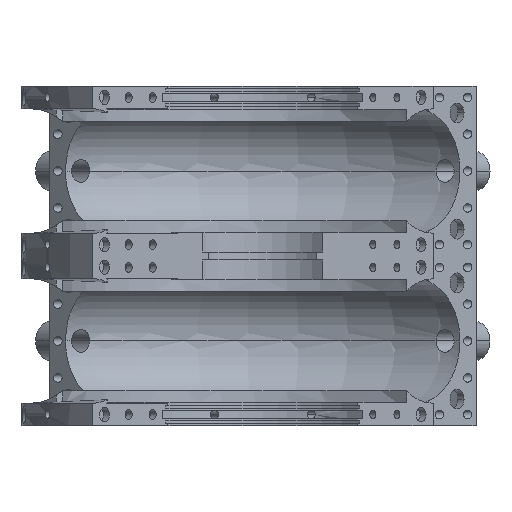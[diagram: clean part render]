
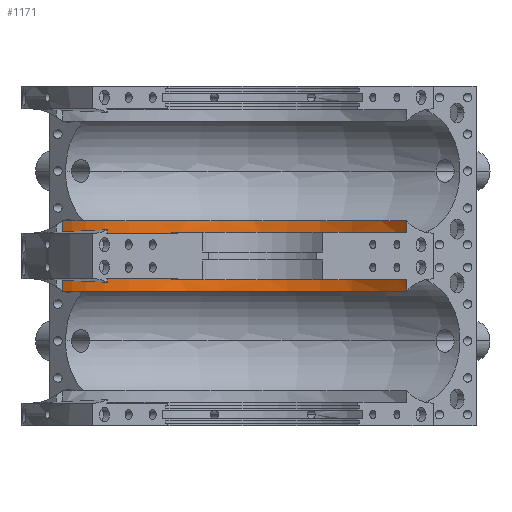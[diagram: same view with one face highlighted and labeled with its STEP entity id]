
A CAD part, front view. The second image highlights one B-rep face of the part: STEP entity #1171.
In plain terms, the highlighted cylindrical face has radius 71.8 mm (diameter 143.6 mm), a partial arc.
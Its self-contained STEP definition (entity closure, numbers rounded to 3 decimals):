
#1171=ADVANCED_FACE('',(#2918,#2919,#2920,#2921),#2922,.F.);
#2918=FACE_OUTER_BOUND('',#5284,.T.);
#2919=FACE_BOUND('',#5285,.T.);
#2920=FACE_BOUND('',#5286,.T.);
#2921=FACE_BOUND('',#5287,.T.);
#2922=CYLINDRICAL_SURFACE('',#5288,71.8);
#5284=EDGE_LOOP('',(#9042,#9043,#9044,#9045,#9046,#9047,#9048,#9049));
#5285=EDGE_LOOP('',(#9050,#9051,#9052,#9053));
#5286=EDGE_LOOP('',(#9054,#9055,#9056,#9057));
#5287=EDGE_LOOP('',(#9058,#9059,#9060,#9061));
#5288=AXIS2_PLACEMENT_3D('',#9062,#9063,#9064);
#9042=ORIENTED_EDGE('',*,*,#15337,.T.);
#9043=ORIENTED_EDGE('',*,*,#15006,.T.);
#9044=ORIENTED_EDGE('',*,*,#15338,.F.);
#9045=ORIENTED_EDGE('',*,*,#15339,.F.);
#9046=ORIENTED_EDGE('',*,*,#15340,.T.);
#9047=ORIENTED_EDGE('',*,*,#15341,.F.);
#9048=ORIENTED_EDGE('',*,*,#15342,.F.);
#9049=ORIENTED_EDGE('',*,*,#15343,.T.);
#9050=ORIENTED_EDGE('',*,*,#14479,.F.);
#9051=ORIENTED_EDGE('',*,*,#15344,.F.);
#9052=ORIENTED_EDGE('',*,*,#15345,.T.);
#9053=ORIENTED_EDGE('',*,*,#15346,.F.);
#9054=ORIENTED_EDGE('',*,*,#15347,.F.);
#9055=ORIENTED_EDGE('',*,*,#15348,.F.);
#9056=ORIENTED_EDGE('',*,*,#15349,.T.);
#9057=ORIENTED_EDGE('',*,*,#15350,.F.);
#9058=ORIENTED_EDGE('',*,*,#15351,.F.);
#9059=ORIENTED_EDGE('',*,*,#15352,.T.);
#9060=ORIENTED_EDGE('',*,*,#15353,.F.);
#9061=ORIENTED_EDGE('',*,*,#15248,.F.);
#9062=CARTESIAN_POINT('',(0.0,0.,8.4));
#9063=DIRECTION('',(0.0,0.0,1.0));
#9064=DIRECTION('',(1.0,0.0,0.0));
#14479=EDGE_CURVE('',#17643,#17646,#17647,.T.);
#15006=EDGE_CURVE('',#18537,#18535,#18538,.T.);
#15248=EDGE_CURVE('',#18934,#18936,#18937,.T.);
#15337=EDGE_CURVE('',#19083,#18537,#19084,.T.);
#15338=EDGE_CURVE('',#19085,#18535,#19086,.T.);
#15339=EDGE_CURVE('',#19087,#19085,#19088,.T.);
#15340=EDGE_CURVE('',#19087,#19089,#19090,.T.);
#15341=EDGE_CURVE('',#19091,#19089,#19092,.T.);
#15342=EDGE_CURVE('',#19093,#19091,#19094,.T.);
#15343=EDGE_CURVE('',#19093,#19083,#19095,.T.);
#15344=EDGE_CURVE('',#19096,#17643,#19097,.T.);
#15345=EDGE_CURVE('',#19096,#19098,#19099,.T.);
#15346=EDGE_CURVE('',#17646,#19098,#19100,.T.);
#15347=EDGE_CURVE('',#19101,#19102,#19103,.T.);
#15348=EDGE_CURVE('',#19104,#19101,#19105,.T.);
#15349=EDGE_CURVE('',#19104,#19106,#19107,.T.);
#15350=EDGE_CURVE('',#19102,#19106,#19108,.T.);
#15351=EDGE_CURVE('',#19109,#18934,#19110,.T.);
#15352=EDGE_CURVE('',#19109,#19111,#19112,.T.);
#15353=EDGE_CURVE('',#18936,#19111,#19113,.T.);
#17643=VERTEX_POINT('',#23218);
#17646=VERTEX_POINT('',#23222);
#17647=LINE('',#23223,#23224);
#18535=VERTEX_POINT('',#25432);
#18537=VERTEX_POINT('',#25434);
#18538=CIRCLE('',#25435,71.8);
#18934=VERTEX_POINT('',#26609);
#18936=VERTEX_POINT('',#26612);
#18937=LINE('',#26613,#26614);
#19083=VERTEX_POINT('',#26959);
#19084=LINE('',#26960,#26961);
#19085=VERTEX_POINT('',#26962);
#19086=LINE('',#26963,#26964);
#19087=VERTEX_POINT('',#26965);
#19088=CIRCLE('',#26966,71.8);
#19089=VERTEX_POINT('',#26967);
#19090=LINE('',#26968,#26969);
#19091=VERTEX_POINT('',#26970);
#19092=CIRCLE('',#26971,71.8);
#19093=VERTEX_POINT('',#26972);
#19094=LINE('',#26973,#26974);
#19095=CIRCLE('',#26975,71.8);
#19096=VERTEX_POINT('',#26976);
#19097=CIRCLE('',#26977,71.8);
#19098=VERTEX_POINT('',#26978);
#19099=LINE('',#26979,#26980);
#19100=CIRCLE('',#26981,71.8);
#19101=VERTEX_POINT('',#26982);
#19102=VERTEX_POINT('',#26983);
#19103=LINE('',#26984,#26985);
#19104=VERTEX_POINT('',#26986);
#19105=CIRCLE('',#26987,71.8);
#19106=VERTEX_POINT('',#26988);
#19107=LINE('',#26989,#26990);
#19108=CIRCLE('',#26991,71.8);
#19109=VERTEX_POINT('',#26992);
#19110=CIRCLE('',#26993,71.8);
#19111=VERTEX_POINT('',#26994);
#19112=LINE('',#26995,#26996);
#19113=CIRCLE('',#26997,71.8);
#23218=CARTESIAN_POINT('',(31.697,64.425,51.6));
#23222=CARTESIAN_POINT('',(31.697,64.425,68.4));
#23223=CARTESIAN_POINT('',(31.697,64.425,50.0));
#23224=VECTOR('',#31728,1.0);
#25432=CARTESIAN_POINT('',(50.77,50.77,47.6));
#25434=CARTESIAN_POINT('',(-70.566,13.254,47.6));
#25435=AXIS2_PLACEMENT_3D('',#32542,#32543,#32544);
#26609=CARTESIAN_POINT('',(1.5,71.784,51.6));
#26612=CARTESIAN_POINT('',(1.5,71.784,68.4));
#26613=CARTESIAN_POINT('',(1.5,71.784,50.0));
#26614=VECTOR('',#32980,1.0);
#26959=CARTESIAN_POINT('',(-70.566,13.254,72.4));
#26960=CARTESIAN_POINT('',(-70.566,13.254,0.));
#26961=VECTOR('',#33128,1.0);
#26962=CARTESIAN_POINT('',(50.77,50.77,51.6));
#26963=CARTESIAN_POINT('',(50.77,50.77,49.6));
#26964=VECTOR('',#33129,1.0);
#26965=CARTESIAN_POINT('',(47.105,54.188,51.6));
#26966=AXIS2_PLACEMENT_3D('',#33130,#33131,#33132);
#26967=CARTESIAN_POINT('',(47.105,54.188,68.4));
#26968=CARTESIAN_POINT('',(47.105,54.188,50.0));
#26969=VECTOR('',#33133,1.0);
#26970=CARTESIAN_POINT('',(50.77,50.77,68.4));
#26971=AXIS2_PLACEMENT_3D('',#33134,#33135,#33136);
#26972=CARTESIAN_POINT('',(50.77,50.77,72.4));
#26973=CARTESIAN_POINT('',(50.77,50.77,68.4));
#26974=VECTOR('',#33137,1.0);
#26975=AXIS2_PLACEMENT_3D('',#33138,#33139,#33140);
#26976=CARTESIAN_POINT('',(28.978,65.693,51.6));
#26977=AXIS2_PLACEMENT_3D('',#33141,#33142,#33143);
#26978=CARTESIAN_POINT('',(28.978,65.693,68.4));
#26979=CARTESIAN_POINT('',(28.978,65.693,50.0));
#26980=VECTOR('',#33144,1.0);
#26981=AXIS2_PLACEMENT_3D('',#33145,#33146,#33147);
#26982=CARTESIAN_POINT('',(-28.978,65.693,51.6));
#26983=CARTESIAN_POINT('',(-28.978,65.693,68.4));
#26984=CARTESIAN_POINT('',(-28.978,65.693,50.0));
#26985=VECTOR('',#33148,1.0);
#26986=CARTESIAN_POINT('',(-31.697,64.425,51.6));
#26987=AXIS2_PLACEMENT_3D('',#33149,#33150,#33151);
#26988=CARTESIAN_POINT('',(-31.697,64.425,68.4));
#26989=CARTESIAN_POINT('',(-31.697,64.425,50.0));
#26990=VECTOR('',#33152,1.0);
#26991=AXIS2_PLACEMENT_3D('',#33153,#33154,#33155);
#26992=CARTESIAN_POINT('',(-1.5,71.784,51.6));
#26993=AXIS2_PLACEMENT_3D('',#33156,#33157,#33158);
#26994=CARTESIAN_POINT('',(-1.5,71.784,68.4));
#26995=CARTESIAN_POINT('',(-1.5,71.784,50.0));
#26996=VECTOR('',#33159,1.0);
#26997=AXIS2_PLACEMENT_3D('',#33160,#33161,#33162);
#31728=DIRECTION('',(0.0,0.0,1.0));
#32542=CARTESIAN_POINT('',(0.0,0.,47.6));
#32543=DIRECTION('',(0.0,0.0,-1.0));
#32544=DIRECTION('',(1.0,0.0,0.0));
#32980=DIRECTION('',(0.0,0.0,1.0));
#33128=DIRECTION('',(0.0,0.0,-1.0));
#33129=DIRECTION('',(0.0,0.0,-1.0));
#33130=CARTESIAN_POINT('',(0.0,0.,51.6));
#33131=DIRECTION('',(0.0,0.0,-1.0));
#33132=DIRECTION('',(1.0,0.0,0.0));
#33133=DIRECTION('',(0.0,0.0,1.0));
#33134=CARTESIAN_POINT('',(0.0,0.,68.4));
#33135=DIRECTION('',(0.0,0.0,1.0));
#33136=DIRECTION('',(1.0,0.0,0.0));
#33137=DIRECTION('',(0.0,0.0,-1.0));
#33138=CARTESIAN_POINT('',(0.0,0.,72.4));
#33139=DIRECTION('',(0.0,0.0,1.0));
#33140=DIRECTION('',(1.0,0.0,0.0));
#33141=CARTESIAN_POINT('',(0.0,0.,51.6));
#33142=DIRECTION('',(0.0,0.0,-1.0));
#33143=DIRECTION('',(1.0,0.0,0.0));
#33144=DIRECTION('',(0.0,0.0,1.0));
#33145=CARTESIAN_POINT('',(0.0,0.,68.4));
#33146=DIRECTION('',(0.0,0.0,1.0));
#33147=DIRECTION('',(1.0,0.0,0.0));
#33148=DIRECTION('',(0.0,0.0,1.0));
#33149=CARTESIAN_POINT('',(0.0,0.,51.6));
#33150=DIRECTION('',(0.0,0.0,-1.0));
#33151=DIRECTION('',(1.0,0.0,0.0));
#33152=DIRECTION('',(0.0,0.0,1.0));
#33153=CARTESIAN_POINT('',(0.0,0.,68.4));
#33154=DIRECTION('',(0.0,0.0,1.0));
#33155=DIRECTION('',(1.0,0.0,0.0));
#33156=CARTESIAN_POINT('',(0.0,0.,51.6));
#33157=DIRECTION('',(0.0,0.0,-1.0));
#33158=DIRECTION('',(1.0,0.0,0.0));
#33159=DIRECTION('',(0.0,0.0,1.0));
#33160=CARTESIAN_POINT('',(0.0,0.,68.4));
#33161=DIRECTION('',(0.0,0.0,1.0));
#33162=DIRECTION('',(1.0,0.0,0.0));
